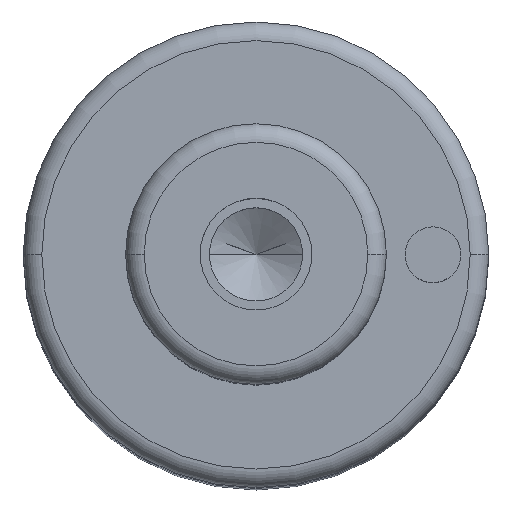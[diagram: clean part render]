
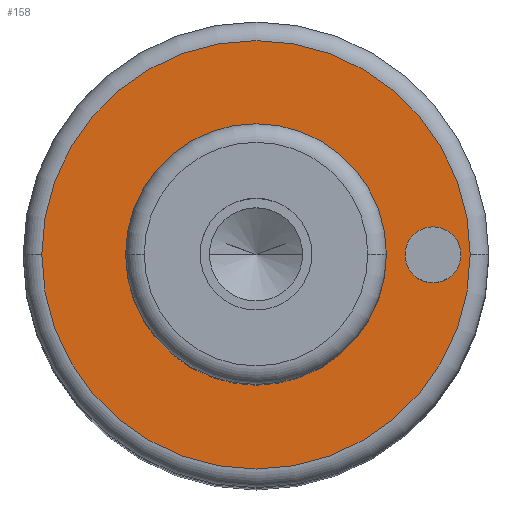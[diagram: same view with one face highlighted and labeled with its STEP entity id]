
A CAD part, top view. The second image highlights one B-rep face of the part: STEP entity #158.
In plain terms, the highlighted planar face has unit normal (0, 0, 1).
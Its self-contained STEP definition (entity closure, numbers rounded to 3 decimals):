
#105=PLANE('',#628);
#113=FACE_BOUND('',#229,.T.);
#114=FACE_BOUND('',#230,.T.);
#115=FACE_BOUND('',#231,.T.);
#158=ADVANCED_FACE('',(#113,#114,#115),#105,.T.);
#229=EDGE_LOOP('',(#375,#376));
#230=EDGE_LOOP('',(#377,#378));
#231=EDGE_LOOP('',(#379,#380));
#259=CIRCLE('',#596,7.);
#260=CIRCLE('',#598,7.);
#264=CIRCLE('',#603,11.5);
#265=CIRCLE('',#605,11.5);
#277=CIRCLE('',#626,1.5);
#278=CIRCLE('',#627,1.5);
#375=ORIENTED_EDGE('',*,*,#488,.F.);
#376=ORIENTED_EDGE('',*,*,#489,.F.);
#377=ORIENTED_EDGE('',*,*,#507,.F.);
#378=ORIENTED_EDGE('',*,*,#508,.F.);
#379=ORIENTED_EDGE('',*,*,#484,.T.);
#380=ORIENTED_EDGE('',*,*,#482,.T.);
#434=VERTEX_POINT('',#875);
#435=VERTEX_POINT('',#877);
#436=VERTEX_POINT('',#883);
#439=VERTEX_POINT('',#888);
#448=VERTEX_POINT('',#927);
#449=VERTEX_POINT('',#928);
#482=EDGE_CURVE('',#435,#434,#259,.T.);
#484=EDGE_CURVE('',#434,#435,#260,.T.);
#488=EDGE_CURVE('',#439,#436,#264,.T.);
#489=EDGE_CURVE('',#436,#439,#265,.T.);
#507=EDGE_CURVE('',#448,#449,#277,.T.);
#508=EDGE_CURVE('',#449,#448,#278,.T.);
#596=AXIS2_PLACEMENT_3D('',#876,#707,#708);
#598=AXIS2_PLACEMENT_3D('',#880,#712,#713);
#603=AXIS2_PLACEMENT_3D('',#889,#722,#723);
#605=AXIS2_PLACEMENT_3D('',#891,#726,#727);
#626=AXIS2_PLACEMENT_3D('',#926,#774,#775);
#627=AXIS2_PLACEMENT_3D('',#929,#776,#777);
#628=AXIS2_PLACEMENT_3D('',#930,#778,#779);
#707=DIRECTION('',(0.,0.,-1.));
#708=DIRECTION('',(0.,1.,0.));
#712=DIRECTION('',(0.,0.,-1.));
#713=DIRECTION('',(0.,-1.,0.));
#722=DIRECTION('',(0.,0.,-1.));
#723=DIRECTION('',(0.,1.,0.));
#726=DIRECTION('',(0.,0.,-1.));
#727=DIRECTION('',(0.,-1.,0.));
#774=DIRECTION('',(0.,0.,1.));
#775=DIRECTION('',(0.,1.,0.));
#776=DIRECTION('',(0.,0.,1.));
#777=DIRECTION('',(0.,-1.,0.));
#778=DIRECTION('',(0.,0.,1.));
#779=DIRECTION('',(0.,-1.,0.));
#875=CARTESIAN_POINT('',(-7.,0.,73.));
#876=CARTESIAN_POINT('',(0.,0.,73.));
#877=CARTESIAN_POINT('',(7.,0.,73.));
#880=CARTESIAN_POINT('',(0.,0.,73.));
#883=CARTESIAN_POINT('',(-11.5,0.,73.));
#888=CARTESIAN_POINT('',(11.5,0.,73.));
#889=CARTESIAN_POINT('',(0.,0.,73.));
#891=CARTESIAN_POINT('',(0.,0.,73.));
#926=CARTESIAN_POINT('',(9.5,0.,73.));
#927=CARTESIAN_POINT('',(8.,0.,73.));
#928=CARTESIAN_POINT('',(11.,0.,73.));
#929=CARTESIAN_POINT('',(9.5,0.,73.));
#930=CARTESIAN_POINT('',(0.,0.,73.));
